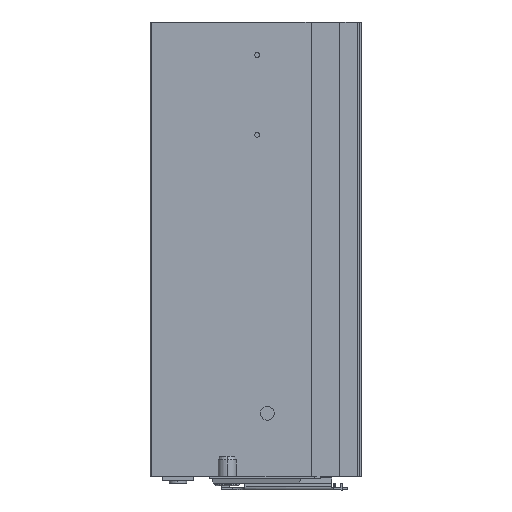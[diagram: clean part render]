
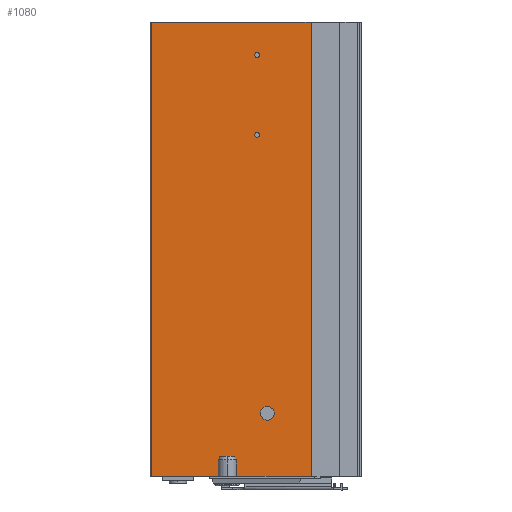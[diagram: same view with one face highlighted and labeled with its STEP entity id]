
A CAD part, left-side view. The second image highlights one B-rep face of the part: STEP entity #1080.
In plain terms, the highlighted planar face has unit normal (-1, 0, 0).
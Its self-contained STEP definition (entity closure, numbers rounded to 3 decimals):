
#147 = ORIENTED_EDGE ( 'NONE', *, *, #1345, .F. ) ;
#162 = CARTESIAN_POINT ( 'NONE',  ( -10.5, 29.453, -64.618 ) ) ;
#168 = EDGE_CURVE ( 'NONE', #2866, #749, #3212, .T. ) ;
#203 = EDGE_CURVE ( 'NONE', #1100, #2534, #2875, .T. ) ;
#229 = VERTEX_POINT ( 'NONE', #162 ) ;
#238 = ORIENTED_EDGE ( 'NONE', *, *, #203, .F. ) ;
#244 = VERTEX_POINT ( 'NONE', #2033 ) ;
#402 = AXIS2_PLACEMENT_3D ( 'NONE', #2919, #2643, #755 ) ;
#412 = CARTESIAN_POINT ( 'NONE',  ( -10.5, 91.9, -260. ) ) ;
#428 = ORIENTED_EDGE ( 'NONE', *, *, #2060, .T. ) ;
#448 = AXIS2_PLACEMENT_3D ( 'NONE', #1204, #3117, #1473 ) ;
#544 = AXIS2_PLACEMENT_3D ( 'NONE', #2769, #1123, #3039 ) ;
#565 = VECTOR ( 'NONE', #1056, 1000. ) ;
#590 = VECTOR ( 'NONE', #2542, 1000. ) ;
#687 = ORIENTED_EDGE ( 'NONE', *, *, #1535, .F. ) ;
#698 = VERTEX_POINT ( 'NONE', #1683 ) ;
#715 = ORIENTED_EDGE ( 'NONE', *, *, #1857, .F. ) ;
#720 = DIRECTION ( 'NONE',  ( 1., 0., 0. ) ) ;
#749 = VERTEX_POINT ( 'NONE', #3362 ) ;
#755 = DIRECTION ( 'NONE',  ( 0., 1., 0. ) ) ;
#847 = EDGE_CURVE ( 'NONE', #244, #2602, #2178, .T. ) ;
#869 = FACE_BOUND ( 'NONE', #1454, .T. ) ;
#901 = EDGE_LOOP ( 'NONE', ( #715, #1638 ) ) ;
#952 = EDGE_CURVE ( 'NONE', #749, #1186, #2806, .T. ) ;
#979 = EDGE_CURVE ( 'NONE', #2866, #2534, #2629, .T. ) ;
#1004 = DIRECTION ( 'NONE',  ( -1., 0., 0. ) ) ;
#1020 = CIRCLE ( 'NONE', #448, 1.397 ) ;
#1041 = VECTOR ( 'NONE', #1744, 1000. ) ;
#1056 = DIRECTION ( 'NONE',  ( 0., 0., -1. ) ) ;
#1062 = CIRCLE ( 'NONE', #544, 1.397 ) ;
#1080 = ADVANCED_FACE ( 'NONE', ( #869, #3031, #1420, #3402 ), #1277, .F. ) ;
#1082 = AXIS2_PLACEMENT_3D ( 'NONE', #1300, #3204, #1567 ) ;
#1100 = VERTEX_POINT ( 'NONE', #1413 ) ;
#1117 = CIRCLE ( 'NONE', #2002, 1.397 ) ;
#1123 = DIRECTION ( 'NONE',  ( -1., 0., 0. ) ) ;
#1186 = VERTEX_POINT ( 'NONE', #1446 ) ;
#1204 = CARTESIAN_POINT ( 'NONE',  ( -10.5, 30.85, -64.618 ) ) ;
#1244 = EDGE_LOOP ( 'NONE', ( #428, #1448 ) ) ;
#1277 = PLANE ( 'NONE',  #402 ) ;
#1300 = CARTESIAN_POINT ( 'NONE',  ( -10.5, 25., -224. ) ) ;
#1337 = CARTESIAN_POINT ( 'NONE',  ( -10.5, 91.9, -260. ) ) ;
#1345 = EDGE_CURVE ( 'NONE', #3124, #1633, #1117, .T. ) ;
#1377 = VECTOR ( 'NONE', #3367, 1000. ) ;
#1409 = DIRECTION ( 'NONE',  ( -1., 0., 0. ) ) ;
#1413 = CARTESIAN_POINT ( 'NONE',  ( -10.5, 58., -260. ) ) ;
#1420 = FACE_BOUND ( 'NONE', #901, .T. ) ;
#1446 = CARTESIAN_POINT ( 'NONE',  ( -10.5, 0., -260. ) ) ;
#1448 = ORIENTED_EDGE ( 'NONE', *, *, #847, .T. ) ;
#1454 = EDGE_LOOP ( 'NONE', ( #147, #2314 ) ) ;
#1473 = DIRECTION ( 'NONE',  ( 0., 1., 0. ) ) ;
#1483 = ORIENTED_EDGE ( 'NONE', *, *, #979, .T. ) ;
#1535 = EDGE_CURVE ( 'NONE', #1186, #1100, #1802, .T. ) ;
#1567 = DIRECTION ( 'NONE',  ( 0., 1., 0. ) ) ;
#1633 = VERTEX_POINT ( 'NONE', #3278 ) ;
#1638 = ORIENTED_EDGE ( 'NONE', *, *, #2882, .F. ) ;
#1683 = CARTESIAN_POINT ( 'NONE',  ( -10.5, 32.247, -64.618 ) ) ;
#1744 = DIRECTION ( 'NONE',  ( 0., 0., -1. ) ) ;
#1751 = EDGE_CURVE ( 'NONE', #1633, #3124, #3343, .T. ) ;
#1802 = LINE ( 'NONE', #1337, #3126 ) ;
#1857 = EDGE_CURVE ( 'NONE', #698, #229, #1020, .T. ) ;
#1885 = ORIENTED_EDGE ( 'NONE', *, *, #168, .F. ) ;
#2002 = AXIS2_PLACEMENT_3D ( 'NONE', #2617, #1004, #2902 ) ;
#2027 = ORIENTED_EDGE ( 'NONE', *, *, #952, .F. ) ;
#2033 = CARTESIAN_POINT ( 'NONE',  ( -10.5, 21.1, -224. ) ) ;
#2060 = EDGE_CURVE ( 'NONE', #2602, #244, #2377, .T. ) ;
#2178 = CIRCLE ( 'NONE', #2702, 3.9 ) ;
#2289 = CARTESIAN_POINT ( 'NONE',  ( -10.5, 91.5, 0. ) ) ;
#2314 = ORIENTED_EDGE ( 'NONE', *, *, #1751, .F. ) ;
#2319 = CARTESIAN_POINT ( 'NONE',  ( -10.5, 25., -224. ) ) ;
#2377 = CIRCLE ( 'NONE', #1082, 3.9 ) ;
#2534 = VERTEX_POINT ( 'NONE', #2881 ) ;
#2542 = DIRECTION ( 'NONE',  ( 0., -1., 0. ) ) ;
#2602 = VERTEX_POINT ( 'NONE', #3160 ) ;
#2603 = DIRECTION ( 'NONE',  ( 0., 1., 0. ) ) ;
#2617 = CARTESIAN_POINT ( 'NONE',  ( -10.5, 30.85, -18.85 ) ) ;
#2629 = LINE ( 'NONE', #2289, #565 ) ;
#2643 = DIRECTION ( 'NONE',  ( 1., 0., 0. ) ) ;
#2702 = AXIS2_PLACEMENT_3D ( 'NONE', #2319, #720, #2603 ) ;
#2769 = CARTESIAN_POINT ( 'NONE',  ( -10.5, 30.85, -64.618 ) ) ;
#2806 = LINE ( 'NONE', #2927, #1041 ) ;
#2854 = CARTESIAN_POINT ( 'NONE',  ( -10.5, 32.247, -18.85 ) ) ;
#2866 = VERTEX_POINT ( 'NONE', #3016 ) ;
#2875 = LINE ( 'NONE', #412, #1377 ) ;
#2877 = AXIS2_PLACEMENT_3D ( 'NONE', #3054, #1409, #3326 ) ;
#2881 = CARTESIAN_POINT ( 'NONE',  ( -10.5, 91.5, -260. ) ) ;
#2882 = EDGE_CURVE ( 'NONE', #229, #698, #1062, .T. ) ;
#2902 = DIRECTION ( 'NONE',  ( 0., 1., 0. ) ) ;
#2919 = CARTESIAN_POINT ( 'NONE',  ( -10.5, 91.5, 0. ) ) ;
#2927 = CARTESIAN_POINT ( 'NONE',  ( -10.5, 0., 0. ) ) ;
#3016 = CARTESIAN_POINT ( 'NONE',  ( -10.5, 91.5, 0. ) ) ;
#3031 = FACE_OUTER_BOUND ( 'NONE', #3213, .T. ) ;
#3039 = DIRECTION ( 'NONE',  ( 0., 1., 0. ) ) ;
#3054 = CARTESIAN_POINT ( 'NONE',  ( -10.5, 30.85, -18.85 ) ) ;
#3117 = DIRECTION ( 'NONE',  ( -1., 0., 0. ) ) ;
#3124 = VERTEX_POINT ( 'NONE', #2854 ) ;
#3126 = VECTOR ( 'NONE', #3244, 1000. ) ;
#3160 = CARTESIAN_POINT ( 'NONE',  ( -10.5, 28.9, -224. ) ) ;
#3204 = DIRECTION ( 'NONE',  ( 1., 0., 0. ) ) ;
#3212 = LINE ( 'NONE', #3352, #590 ) ;
#3213 = EDGE_LOOP ( 'NONE', ( #1483, #238, #687, #2027, #1885 ) ) ;
#3244 = DIRECTION ( 'NONE',  ( 0., 1., 0. ) ) ;
#3278 = CARTESIAN_POINT ( 'NONE',  ( -10.5, 29.453, -18.85 ) ) ;
#3326 = DIRECTION ( 'NONE',  ( 0., 1., 0. ) ) ;
#3343 = CIRCLE ( 'NONE', #2877, 1.397 ) ;
#3352 = CARTESIAN_POINT ( 'NONE',  ( -10.5, 91.5, 0. ) ) ;
#3362 = CARTESIAN_POINT ( 'NONE',  ( -10.5, 0., 0. ) ) ;
#3367 = DIRECTION ( 'NONE',  ( 0., 1., 0. ) ) ;
#3402 = FACE_BOUND ( 'NONE', #1244, .T. ) ;
